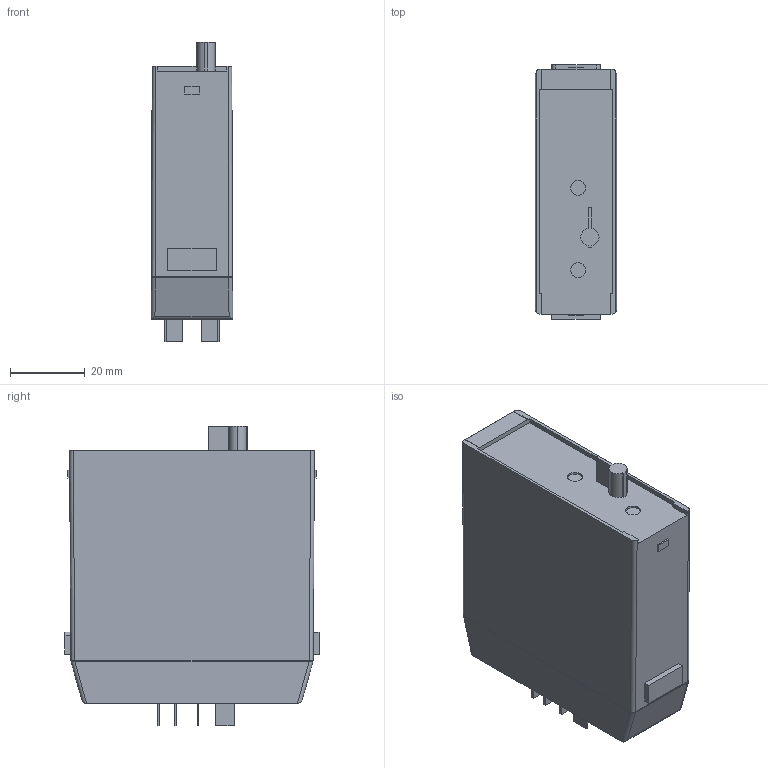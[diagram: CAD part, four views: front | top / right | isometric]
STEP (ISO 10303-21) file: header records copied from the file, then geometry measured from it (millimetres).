
FILE_DESCRIPTION (( 'STEP AP214' ), '1' );
FILE_NAME ('C83.STEP', '2024-04-16T07:17:02', ( '' ), ( '' ), 'SwSTEP 2.0', 'SolidWorks 2022', '' );
FILE_SCHEMA (( 'AUTOMOTIVE_DESIGN' ));
Length unit declared in the file: millimetre
Products named in the file (1): C83
Bounding box: 21.8 x 68 x 80.15 mm (x, y, z)
Volume: 92924.5 mm3; surface area: 15239.6 mm2
Topology: 1 solids, 1 shells, 127 faces, 318 edges, 208 vertices
Faces by surface type: plane 98, cylinder 21, sphere 8
Entity records: 4907 total; most frequent: CARTESIAN_POINT 720, ORIENTED_EDGE 636, DIRECTION 596, EDGE_CURVE 318, LINE 252, VECTOR 252, VERTEX_POINT 208, AXIS2_PLACEMENT_3D 172
